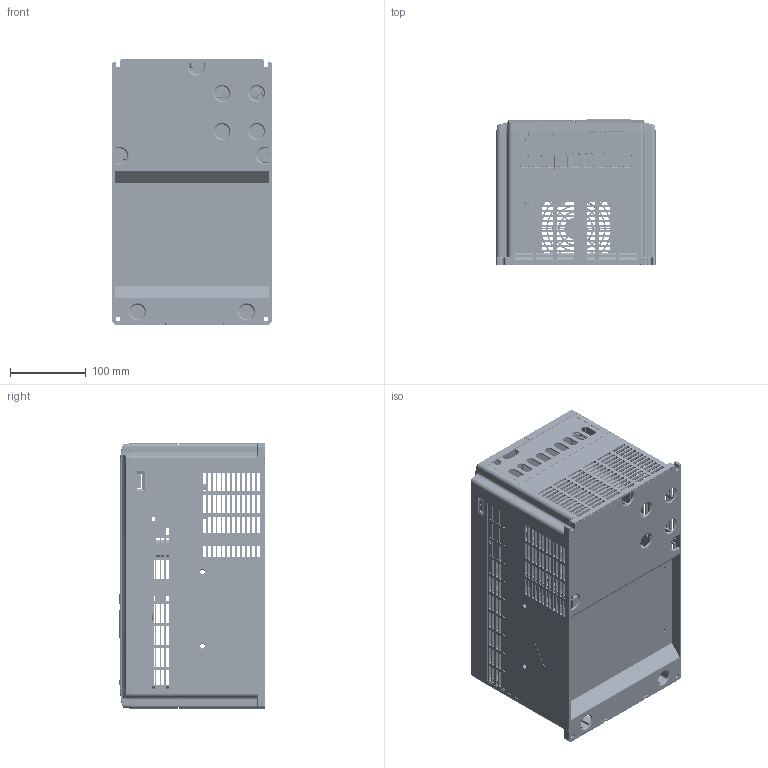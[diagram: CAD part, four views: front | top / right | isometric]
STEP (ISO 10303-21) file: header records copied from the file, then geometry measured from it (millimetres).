
FILE_DESCRIPTION((''),'2;1');
FILE_NAME('000_MVT223ZGB-520_ASM','2021-12-13T',('h2718'),(''),'CREO PARAMETRIC BY PTC INC, 2015290','CREO PARAMETRIC BY PTC INC, 2015290','');
FILE_SCHEMA(('AP203_CONFIGURATION_CONTROLLED_3D_DESIGN_OF_MECHANICAL_PARTS_AND_ASSEMBLIES_MIM_LF { 1 0 10303 403 2 1 2 }'));
Products named in the file (13): 8038094_1_6; 8074071-01_3_12; 20211971_40_4; 8074071-05_1_6; 8074071-02_26; 8074071_ASM_ASM; 15020301_5_ASM_1_SW0001; 520-AJZJ-02-20211209; 520-KZB-20211209; 001-520-ZUJIAN_ASM; 20212500; 20441163; 000_MVT223ZGB-520_ASM
Assembly tree (12 placements, depth 3):
  000_MVT223ZGB-520_ASM
    8038094_1_6
    8074071_ASM_ASM
      8074071-01_3_12
      20211971_40_4
      8074071-05_1_6
      8074071-02_26
    15020301_5_ASM_1_SW0001
    001-520-ZUJIAN_ASM
      520-AJZJ-02-20211209
      520-KZB-20211209
    20212500
    20441163
Bounding box: 210 x 193.28 x 350 mm (x, y, z)
Volume: 1167689.3 mm3; surface area: 1057607.6 mm2
Topology: 48 solids, 61 shells, 14954 faces, 42231 edges, 27387 vertices
Faces by surface type: plane 9438, cylinder 3507, bspline 679, cone 590, torus 519, sphere 125, extrusion 86, revolution 10
Entity records: 700371 total; most frequent: CARTESIAN_POINT 161064, ORIENTED_EDGE 83950, DIRECTION 75249, PRESENTATION_STYLE_ASSIGNMENT 45521, STYLED_ITEM 42378, CURVE_STYLE 42331, EDGE_CURVE 41975, VECTOR 29786
